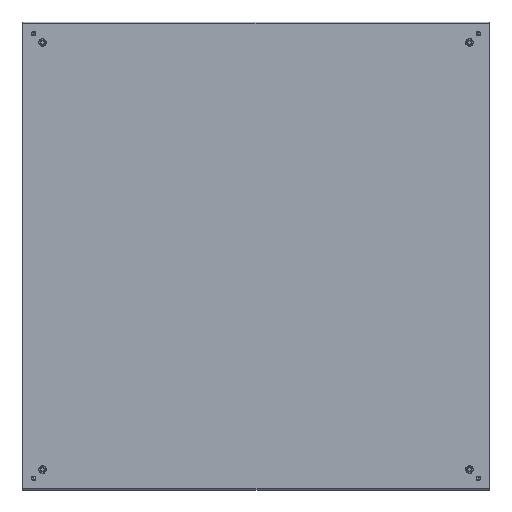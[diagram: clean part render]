
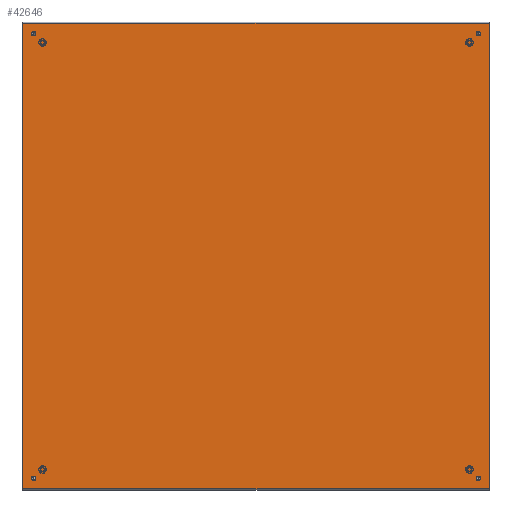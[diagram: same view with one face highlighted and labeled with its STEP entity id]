
A CAD part, front view. The second image highlights one B-rep face of the part: STEP entity #42646.
In plain terms, the highlighted planar face has unit normal (0, -1, 0).
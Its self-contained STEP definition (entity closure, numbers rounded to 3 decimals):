
#271 = EDGE_CURVE ( 'NONE', #33652, #29752, #31879, .T. ) ;
#413 = FACE_OUTER_BOUND ( 'NONE', #49655, .T. ) ;
#579 = CIRCLE ( 'NONE', #31349, 3.9 ) ;
#1011 = EDGE_CURVE ( 'NONE', #54146, #28710, #27226, .T. ) ;
#1832 = AXIS2_PLACEMENT_3D ( 'NONE', #25256, #42136, #4368 ) ;
#1982 = ORIENTED_EDGE ( 'NONE', *, *, #16031, .F. ) ;
#2143 = CARTESIAN_POINT ( 'NONE',  ( -380., -1.5, -380. ) ) ;
#2226 = CARTESIAN_POINT ( 'NONE',  ( -380., -1.5, -380. ) ) ;
#2353 = EDGE_CURVE ( 'NONE', #52996, #53257, #12188, .T. ) ;
#2561 = AXIS2_PLACEMENT_3D ( 'NONE', #47251, #9494, #26276 ) ;
#3320 = VERTEX_POINT ( 'NONE', #26718 ) ;
#3332 = ORIENTED_EDGE ( 'NONE', *, *, #20247, .T. ) ;
#4368 = DIRECTION ( 'NONE',  ( 0., 0., -1. ) ) ;
#4583 = FACE_BOUND ( 'NONE', #25341, .T. ) ;
#4670 = LINE ( 'NONE', #21430, #22450 ) ;
#5807 = ORIENTED_EDGE ( 'NONE', *, *, #1011, .T. ) ;
#6309 = CARTESIAN_POINT ( 'NONE',  ( 380., -1.5, 376.1 ) ) ;
#6554 = ORIENTED_EDGE ( 'NONE', *, *, #19324, .F. ) ;
#7067 = DIRECTION ( 'NONE',  ( -1., 0., 0. ) ) ;
#7330 = ORIENTED_EDGE ( 'NONE', *, *, #12984, .F. ) ;
#7456 = CARTESIAN_POINT ( 'NONE',  ( -380., -1.5, 383.9 ) ) ;
#8160 = AXIS2_PLACEMENT_3D ( 'NONE', #49447, #11655, #28445 ) ;
#8735 = AXIS2_PLACEMENT_3D ( 'NONE', #17990, #34837, #51672 ) ;
#9494 = DIRECTION ( 'NONE',  ( 0., -1., 0. ) ) ;
#11655 = DIRECTION ( 'NONE',  ( 0., -1., 0. ) ) ;
#11846 = VERTEX_POINT ( 'NONE', #6309 ) ;
#12188 = CIRCLE ( 'NONE', #50079, 3.9 ) ;
#12593 = DIRECTION ( 'NONE',  ( 0., 0., -1. ) ) ;
#12984 = EDGE_CURVE ( 'NONE', #53257, #52996, #25566, .T. ) ;
#13076 = DIRECTION ( 'NONE',  ( 0., 0., -1. ) ) ;
#13689 = CARTESIAN_POINT ( 'NONE',  ( -380., -1.5, 380. ) ) ;
#14234 = CARTESIAN_POINT ( 'NONE',  ( 398.4, -1.5, -397.7 ) ) ;
#14373 = EDGE_CURVE ( 'NONE', #15691, #54146, #4670, .T. ) ;
#14883 = ORIENTED_EDGE ( 'NONE', *, *, #14373, .T. ) ;
#15025 = CIRCLE ( 'NONE', #45899, 3.9 ) ;
#15691 = VERTEX_POINT ( 'NONE', #14234 ) ;
#16031 = EDGE_CURVE ( 'NONE', #11846, #37246, #579, .T. ) ;
#16955 = CARTESIAN_POINT ( 'NONE',  ( 380., -1.5, 380. ) ) ;
#17189 = PLANE ( 'NONE',  #45726 ) ;
#17990 = CARTESIAN_POINT ( 'NONE',  ( 380., -1.5, 380. ) ) ;
#18409 = EDGE_LOOP ( 'NONE', ( #1982, #6554 ) ) ;
#18893 = DIRECTION ( 'NONE',  ( 0., -1., 0. ) ) ;
#18920 = CARTESIAN_POINT ( 'NONE',  ( -4400., -1.5, -397.7 ) ) ;
#18981 = DIRECTION ( 'NONE',  ( 0., -1., 0. ) ) ;
#19124 = ORIENTED_EDGE ( 'NONE', *, *, #44595, .F. ) ;
#19324 = EDGE_CURVE ( 'NONE', #37246, #11846, #23714, .T. ) ;
#20022 = EDGE_LOOP ( 'NONE', ( #34878, #7330 ) ) ;
#20247 = EDGE_CURVE ( 'NONE', #3320, #15691, #44090, .T. ) ;
#20817 = LINE ( 'NONE', #50396, #43046 ) ;
#21351 = FACE_BOUND ( 'NONE', #18409, .T. ) ;
#21430 = CARTESIAN_POINT ( 'NONE',  ( 398.4, -1.5, 397.7 ) ) ;
#21828 = ORIENTED_EDGE ( 'NONE', *, *, #26834, .F. ) ;
#22450 = VECTOR ( 'NONE', #38281, 1000. ) ;
#23714 = CIRCLE ( 'NONE', #8735, 3.9 ) ;
#25213 = CARTESIAN_POINT ( 'NONE',  ( 380., -1.5, -383.9 ) ) ;
#25256 = CARTESIAN_POINT ( 'NONE',  ( -380., -1.5, 380. ) ) ;
#25341 = EDGE_LOOP ( 'NONE', ( #38635, #21828 ) ) ;
#25566 = CIRCLE ( 'NONE', #1832, 3.9 ) ;
#25686 = CARTESIAN_POINT ( 'NONE',  ( -380., -1.5, -376.1 ) ) ;
#25781 = EDGE_CURVE ( 'NONE', #51307, #43003, #52768, .T. ) ;
#26276 = DIRECTION ( 'NONE',  ( 0., 0., -1. ) ) ;
#26308 = CIRCLE ( 'NONE', #2561, 3.9 ) ;
#26718 = CARTESIAN_POINT ( 'NONE',  ( -398.4, -1.5, -397.7 ) ) ;
#26834 = EDGE_CURVE ( 'NONE', #29752, #33652, #26308, .T. ) ;
#27226 = LINE ( 'NONE', #44825, #30274 ) ;
#28445 = DIRECTION ( 'NONE',  ( 0., 0., -1. ) ) ;
#28710 = VERTEX_POINT ( 'NONE', #32898 ) ;
#28946 = AXIS2_PLACEMENT_3D ( 'NONE', #2226, #18981, #35830 ) ;
#29752 = VERTEX_POINT ( 'NONE', #52273 ) ;
#29903 = ORIENTED_EDGE ( 'NONE', *, *, #25781, .F. ) ;
#30274 = VECTOR ( 'NONE', #7067, 1000. ) ;
#30500 = DIRECTION ( 'NONE',  ( 0., -1., 0. ) ) ;
#31303 = ORIENTED_EDGE ( 'NONE', *, *, #52094, .T. ) ;
#31349 = AXIS2_PLACEMENT_3D ( 'NONE', #16955, #33801, #50635 ) ;
#31879 = CIRCLE ( 'NONE', #8160, 3.9 ) ;
#32898 = CARTESIAN_POINT ( 'NONE',  ( -398.4, -1.5, 397.7 ) ) ;
#33652 = VERTEX_POINT ( 'NONE', #25213 ) ;
#33801 = DIRECTION ( 'NONE',  ( 0., -1., 0. ) ) ;
#33966 = CARTESIAN_POINT ( 'NONE',  ( -380., -1.5, 376.1 ) ) ;
#34041 = CARTESIAN_POINT ( 'NONE',  ( 0., -1.5, 0. ) ) ;
#34837 = DIRECTION ( 'NONE',  ( 0., -1., 0. ) ) ;
#34878 = ORIENTED_EDGE ( 'NONE', *, *, #2353, .F. ) ;
#35752 = DIRECTION ( 'NONE',  ( 0., 0., 1. ) ) ;
#35779 = DIRECTION ( 'NONE',  ( 1., 0., 0. ) ) ;
#35830 = DIRECTION ( 'NONE',  ( 0., 0., 1. ) ) ;
#36453 = CARTESIAN_POINT ( 'NONE',  ( 380., -1.5, 383.9 ) ) ;
#37246 = VERTEX_POINT ( 'NONE', #36453 ) ;
#38201 = FACE_BOUND ( 'NONE', #20022, .T. ) ;
#38281 = DIRECTION ( 'NONE',  ( 0., 0., 1. ) ) ;
#38635 = ORIENTED_EDGE ( 'NONE', *, *, #271, .F. ) ;
#42136 = DIRECTION ( 'NONE',  ( 0., -1., 0. ) ) ;
#42351 = FACE_BOUND ( 'NONE', #52182, .T. ) ;
#42552 = CARTESIAN_POINT ( 'NONE',  ( 398.4, -1.5, 397.7 ) ) ;
#42646 = ADVANCED_FACE ( 'NONE', ( #42351, #4583, #21351, #38201, #413 ), #17189, .T. ) ;
#43003 = VERTEX_POINT ( 'NONE', #25686 ) ;
#43046 = VECTOR ( 'NONE', #12593, 1000. ) ;
#44090 = LINE ( 'NONE', #18920, #51257 ) ;
#44595 = EDGE_CURVE ( 'NONE', #43003, #51307, #15025, .T. ) ;
#44825 = CARTESIAN_POINT ( 'NONE',  ( 4400., -1.5, 397.7 ) ) ;
#45244 = CARTESIAN_POINT ( 'NONE',  ( -380., -1.5, -383.9 ) ) ;
#45726 = AXIS2_PLACEMENT_3D ( 'NONE', #34041, #50881, #13076 ) ;
#45899 = AXIS2_PLACEMENT_3D ( 'NONE', #2143, #18893, #35752 ) ;
#47251 = CARTESIAN_POINT ( 'NONE',  ( 380., -1.5, -380. ) ) ;
#47338 = DIRECTION ( 'NONE',  ( 0., 0., -1. ) ) ;
#49447 = CARTESIAN_POINT ( 'NONE',  ( 380., -1.5, -380. ) ) ;
#49655 = EDGE_LOOP ( 'NONE', ( #5807, #31303, #3332, #14883 ) ) ;
#50079 = AXIS2_PLACEMENT_3D ( 'NONE', #13689, #30500, #47338 ) ;
#50396 = CARTESIAN_POINT ( 'NONE',  ( -398.4, -1.5, 397.7 ) ) ;
#50635 = DIRECTION ( 'NONE',  ( 0., 0., 1. ) ) ;
#50881 = DIRECTION ( 'NONE',  ( 0., -1., 0. ) ) ;
#51257 = VECTOR ( 'NONE', #35779, 1000. ) ;
#51307 = VERTEX_POINT ( 'NONE', #45244 ) ;
#51672 = DIRECTION ( 'NONE',  ( 0., 0., 1. ) ) ;
#52094 = EDGE_CURVE ( 'NONE', #28710, #3320, #20817, .T. ) ;
#52182 = EDGE_LOOP ( 'NONE', ( #29903, #19124 ) ) ;
#52273 = CARTESIAN_POINT ( 'NONE',  ( 380., -1.5, -376.1 ) ) ;
#52768 = CIRCLE ( 'NONE', #28946, 3.9 ) ;
#52996 = VERTEX_POINT ( 'NONE', #33966 ) ;
#53257 = VERTEX_POINT ( 'NONE', #7456 ) ;
#54146 = VERTEX_POINT ( 'NONE', #42552 ) ;
